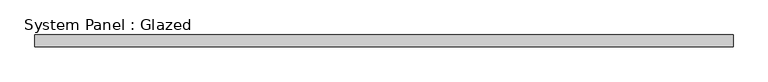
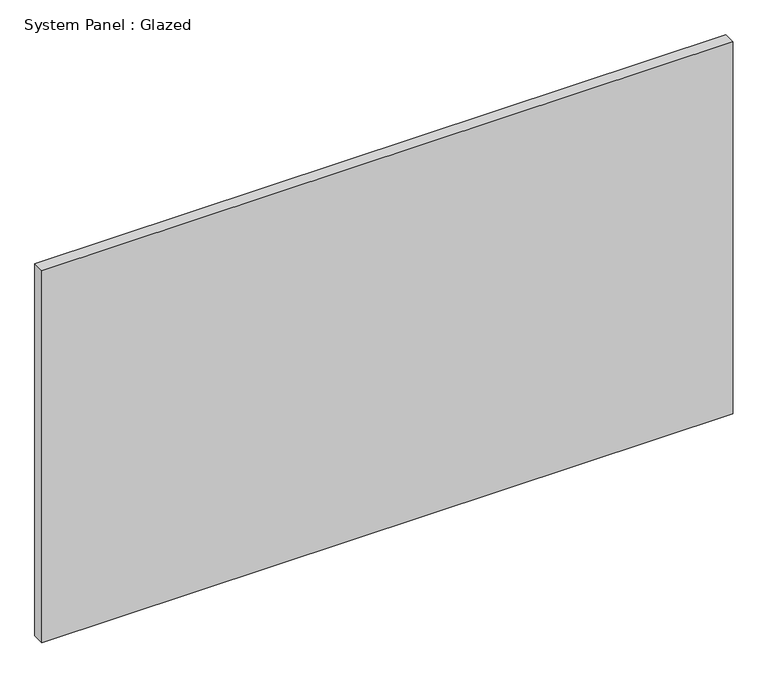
"""IFC4 building model written with IfcOpenShell, lengths in millimetres: plate geometry, System Panel : Glazed."""

import ifcopenshell
import ifcopenshell.guid

model = None  # the IFC model being written
_history = None  # IfcOwnerHistory: only IFC2X3 demands one
_inside = {}  # id of a spatial element -> (the spatial element, [elements in it])
_under = {}  # id of a project, library or spatial element -> (it, [spatial elements below it])
_declared = {}  # id of a project -> (the project, [libraries it declares])
_typed = {}  # id of a type object -> (the type object, [elements of that type])
_made_of = {}  # id of a material, layer set ... -> (it, [elements and type objects made of it])


def new_model(schema):
    """Start an empty IFC model of exactly this schema.

    Asked for "IFC4X3", IfcOpenShell would pick the latest addendum, in which some entities
    have other attributes; the version numbers below select the first issue.
    IFC2X3 requires an IfcOwnerHistory on every rooted entity: one is made here for all.
    """
    global model, _history
    if schema == "IFC4X3":
        model = ifcopenshell.file(schema_version=(4, 3, 0, 0))
    else:
        model = ifcopenshell.file(schema=schema)
    _inside.clear()
    _under.clear()
    _declared.clear()
    _typed.clear()
    _made_of.clear()
    _history = None
    if model.schema == "IFC2X3":
        org = make("IfcOrganization", Name="unknown")
        user = make(
            "IfcPersonAndOrganization",
            ThePerson=make("IfcPerson", FamilyName="unknown"),
            TheOrganization=org,
        )
        app = make(
            "IfcApplication",
            ApplicationDeveloper=org,
            Version="unknown",
            ApplicationFullName="unknown",
            ApplicationIdentifier="unknown",
        )
        _history = make(
            "IfcOwnerHistory",
            OwningUser=user,
            OwningApplication=app,
            ChangeAction="ADDED",
            CreationDate=0,
        )
    return model


def make(cls, **values):
    """One entity of the class cls with the attributes given. An attribute that is None is left unset."""
    return model.create_entity(
        cls, **{name: value for name, value in values.items() if value is not None}
    )


def rooted(cls, **values):
    """An entity with a GlobalId (a new one), such as an element, a storey or a relation."""
    return make(cls, GlobalId=ifcopenshell.guid.new(), OwnerHistory=_history, **values)


def si_unit(unit_type, name, prefix=None):
    """IfcSIUnit, for example si_unit("LENGTHUNIT", "METRE", prefix="MILLI")."""
    return make("IfcSIUnit", UnitType=unit_type, Prefix=prefix, Name=name)


def assignment(units):
    """IfcUnitAssignment: the units of a project."""
    return None if units is None else make("IfcUnitAssignment", Units=units)


def point(xyz):
    """IfcCartesianPoint."""
    return None if xyz is None else make("IfcCartesianPoint", Coordinates=xyz)


def direction(xyz):
    """IfcDirection."""
    return None if xyz is None else make("IfcDirection", DirectionRatios=xyz)


def frame(location, z_axis=None, x_axis=None):
    """IfcAxis2Placement3D, a coordinate frame: its origin and axes. An axis left out is left unset."""
    return make(
        "IfcAxis2Placement3D",
        Location=point(location),
        Axis=direction(z_axis),
        RefDirection=direction(x_axis),
    )


def origin():
    """The frame at (0, 0, 0) with its axes left unset."""
    return frame((0.0, 0.0, 0.0))


def origin_with_axes():
    """The frame at (0, 0, 0) with the z axis (0, 0, 1) and the x axis (1, 0, 0) written out."""
    return frame((0.0, 0.0, 0.0), z_axis=(0.0, 0.0, 1.0), x_axis=(1.0, 0.0, 0.0))


def place(relative_to, where):
    """IfcLocalPlacement: puts the frame where relative to a parent placement (None: the world)."""
    return make(
        "IfcLocalPlacement", PlacementRelTo=relative_to, RelativePlacement=where
    )


def context(
    kind, dimensions, precision=None, world=None, true_north=None, identifier=None
):
    """IfcGeometricRepresentationContext, for example the 3D "Model" context."""
    return make(
        "IfcGeometricRepresentationContext",
        ContextIdentifier=identifier,
        ContextType=kind,
        CoordinateSpaceDimension=dimensions,
        Precision=precision,
        WorldCoordinateSystem=world,
        TrueNorth=true_north,
    )


def project(units=None, contexts=None):
    """IfcProject with its units and contexts."""
    return rooted(
        "IfcProject",
        Name="project",
        RepresentationContexts=contexts,
        UnitsInContext=assignment(units),
    )


def spatial(cls, under=None, at=None, **own):
    """A site, building, storey or space (cls), placed at a placement, below another one or the project."""
    s = rooted(cls, ObjectPlacement=at, **own)
    if under is not None:
        _under.setdefault(under.id(), (under, []))[1].append(s)
    return s


def polyline(points):
    """IfcPolyline through the points."""
    return make("IfcPolyline", Points=[point(p) for p in points])


def outline(outer, holes=None, kind="AREA"):
    """IfcArbitraryClosedProfileDef: a profile drawn as a closed curve; with holes, ...WithVoids."""
    if holes is None:
        return make("IfcArbitraryClosedProfileDef", ProfileType=kind, OuterCurve=outer)
    return make(
        "IfcArbitraryProfileDefWithVoids",
        ProfileType=kind,
        OuterCurve=outer,
        InnerCurves=holes,
    )


def extrude(swept, where, along, depth):
    """IfcExtrudedAreaSolid: the profile swept, set in the frame where, extruded along a direction by depth."""
    return make(
        "IfcExtrudedAreaSolid",
        SweptArea=swept,
        Position=where,
        ExtrudedDirection=direction(along),
        Depth=depth,
    )


def shape(context_of_items, identifier, shape_type, items):
    """IfcShapeRepresentation: the items that make up one representation, for example the "Body"."""
    return make(
        "IfcShapeRepresentation",
        ContextOfItems=context_of_items,
        RepresentationIdentifier=identifier,
        RepresentationType=shape_type,
        Items=items,
    )


def source(mapping_origin, context_of_items, identifier, shape_type, items):
    """IfcRepresentationMap: a shape defined once, which mapped items show again and again."""
    return make(
        "IfcRepresentationMap",
        MappingOrigin=mapping_origin,
        MappedRepresentation=shape(context_of_items, identifier, shape_type, items),
    )


def transform(
    local_origin,
    x_axis=None,
    y_axis=None,
    z_axis=None,
    scale=None,
    scale2=None,
    scale3=None,
    uniform=True,
):
    """IfcCartesianTransformationOperator3D, or its non-uniform kind. x_axis, y_axis, z_axis: its Axis1, 2, 3."""
    if uniform:
        return make(
            "IfcCartesianTransformationOperator3D",
            Axis1=direction(x_axis),
            Axis2=direction(y_axis),
            LocalOrigin=point(local_origin),
            Scale=scale,
            Axis3=direction(z_axis),
        )
    return make(
        "IfcCartesianTransformationOperator3DnonUniform",
        Axis1=direction(x_axis),
        Axis2=direction(y_axis),
        LocalOrigin=point(local_origin),
        Scale=scale,
        Axis3=direction(z_axis),
        Scale2=scale2,
        Scale3=scale3,
    )


def mapped(mapping_source, mapping_target):
    """IfcMappedItem: shows the shape of a source again, moved by a transform."""
    return make(
        "IfcMappedItem", MappingSource=mapping_source, MappingTarget=mapping_target
    )


def made_of(thing, what):
    """Note that an element or type object is made of a material, layer set ...; save() writes the relation."""
    if what is not None:
        _made_of.setdefault(what.id(), (what, []))[1].append(thing)
    return thing


def element(
    cls,
    number,
    at=None,
    inside=None,
    cuts=None,
    type_object=None,
    material=None,
    context=None,
    identifier="Body",
    shape_type=None,
    held_by="IfcProductDefinitionShape",
    body=None,
    shapes=None,
    **own,
):
    """One element of the class cls, such as IfcWall. Its Tag is "e" and its number.

    at: its placement. inside: the storey or other place that contains it. cuts: it is an
    opening in that element (IfcRelVoidsElement). A single representation is given by context,
    identifier, shape_type and body (its items); several are given by shapes. held_by: the class
    of the entity that holds the representations. save() writes the other relations.
    """
    e = rooted(cls, Tag="e%d" % number, ObjectPlacement=at, **own)
    if body is not None:
        shapes = [shape(context, identifier, shape_type, body)]
    if shapes is not None:
        e.Representation = make(held_by, Representations=shapes)
    if inside is not None:
        _inside.setdefault(inside.id(), (inside, []))[1].append(e)
    if cuts is not None:
        rooted(
            "IfcRelVoidsElement", RelatingBuildingElement=cuts, RelatedOpeningElement=e
        )
    if type_object is not None:
        _typed.setdefault(type_object.id(), (type_object, []))[1].append(e)
    return made_of(e, material)


def aggregate(whole, parts):
    """IfcRelAggregates: a whole, such as a stair, and the parts it consists of."""
    return rooted("IfcRelAggregates", RelatingObject=whole, RelatedObjects=parts)


def save(model, path):
    """Write the relations noted so far, then the file.

    IfcRelAggregates (storeys below a building ...), IfcRelContainedInSpatialStructure (elements
    in a storey), IfcRelDefinesByType, IfcRelAssociatesMaterial and IfcRelDeclares: one each for
    every whole, place, type object, material and project.
    """
    for whole, parts in _under.values():
        aggregate(whole, parts)
    for where, things in _inside.values():
        rooted(
            "IfcRelContainedInSpatialStructure",
            RelatedElements=things,
            RelatingStructure=where,
        )
    for kind, things in _typed.values():
        rooted("IfcRelDefinesByType", RelatedObjects=things, RelatingType=kind)
    for what, things in _made_of.values():
        rooted("IfcRelAssociatesMaterial", RelatedObjects=things, RelatingMaterial=what)
    for by, libraries in _declared.values():
        rooted("IfcRelDeclares", RelatingContext=by, RelatedDefinitions=libraries)
    model.write(path)


def system_panel_glazed_5c305629(model_context):
    return source(origin(), model_context, "Body", "SweptSolid", [
        extrude(outline(polyline([(725.0, 24.5), (-725.0, 24.5), (-725.0, 49.5), (725.0, 49.5), (725.0, 24.5)])), origin_with_axes(), (0.0, 0.0, 1.0), 825.0),
    ])


if __name__ == "__main__":
    model = new_model("IFC4")
    model_context = context("Model", 3, world=origin())
    ifc_project = project(units=[si_unit("LENGTHUNIT", "METRE", prefix="MILLI")], contexts=[model_context])
    site = spatial("IfcSite", under=ifc_project)
    building = spatial("IfcBuilding", under=site)
    placement = place(None, origin())
    system_panel_glazed_shape = system_panel_glazed_5c305629(model_context)
    element("IfcPlate", 1, ObjectType="System Panel : Glazed", at=placement, inside=building, context=model_context, shape_type="MappedRepresentation", body=[
        mapped(system_panel_glazed_shape, transform((0.0, 0.0, 0.0), x_axis=(1.0, 0.0, 0.0), y_axis=(0.0, 1.0, 0.0), z_axis=(0.0, 0.0, 1.0))),
    ])
    save(model, "model.ifc")
